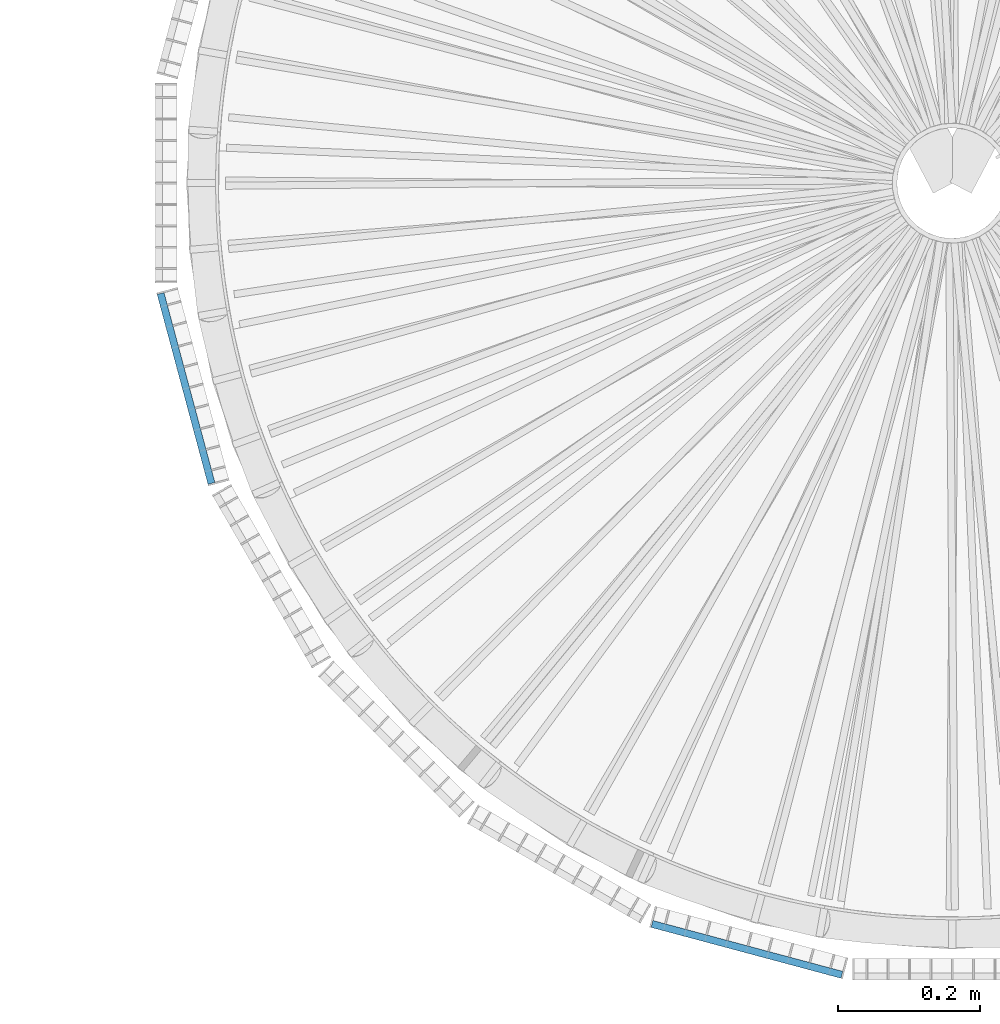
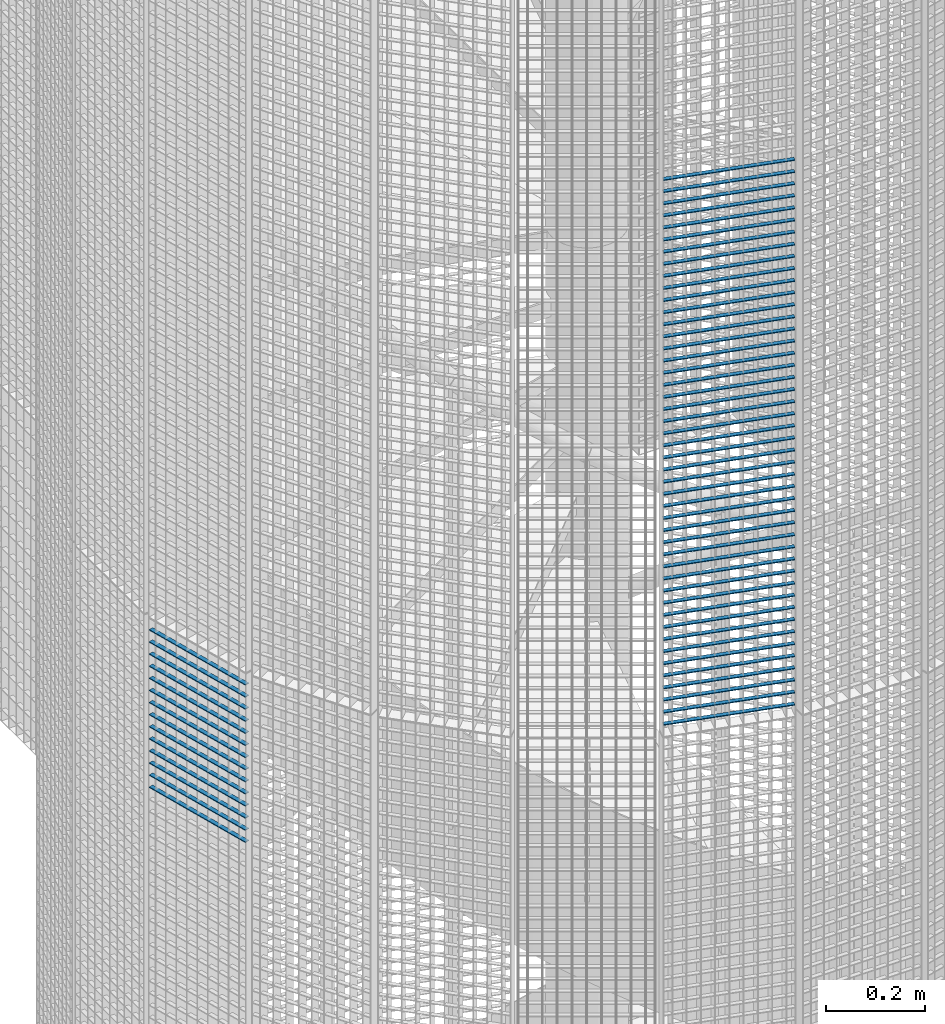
# One storey, part 356 of 1148: 60 beams, 2 elements without a shape of their own.
"""IFC2X3 building model written with IfcOpenShell, lengths in millimetres."""

from ifc_helpers import new_model, si_unit, frame, origin_with_axes, origin_2d_with_axis, place, context, subcontext, project, spatial, rectangle, extrude, material, type_object, element, aggregate, save


model = new_model("IFC2X3")

# Units and contexts
model_context = context("Model", 3, precision=1e-05, world=origin_with_axes())
body_context = subcontext(model_context, "Body", "Model", "MODEL_VIEW")
ifc_project = project(units=[si_unit("LENGTHUNIT", "METRE", prefix="MILLI"), si_unit("AREAUNIT", "SQUARE_METRE"), si_unit("VOLUMEUNIT", "CUBIC_METRE"), si_unit("MASSUNIT", "GRAM", prefix="KILO"), si_unit("TIMEUNIT", "SECOND"), si_unit("PLANEANGLEUNIT", "RADIAN"), si_unit("SOLIDANGLEUNIT", "STERADIAN"), si_unit("THERMODYNAMICTEMPERATUREUNIT", "DEGREE_CELSIUS"), si_unit("LUMINOUSINTENSITYUNIT", "LUMEN")], contexts=[model_context])

# Site, building, storey
site_placement = place(None, origin_with_axes())
site = spatial("IfcSite", under=ifc_project, at=site_placement, Name="Undefined", CompositionType="ELEMENT")
building_placement = place(site_placement, origin_with_axes())
building = spatial("IfcBuilding", under=site, at=building_placement, Name="Undefined", CompositionType="ELEMENT")
storey_placement = place(building_placement, origin_with_axes())
storey = spatial("IfcBuildingStorey", under=building, at=storey_placement, Name="Undefined", CompositionType="ELEMENT", Elevation=0.0)

# Assembly, beams
assembly_1_placement = place(storey_placement, origin_with_axes())
assembly_1 = element("IfcElementAssembly", 1, at=assembly_1_placement, inside=storey, Name="BORDURE", AssemblyPlace="NOTDEFINED", PredefinedType="NOTDEFINED")
ifc_material = material(Name="STEEL/S235JR")
beam_type = type_object("IfcBeamType", Name="PL2*10", PredefinedType="NOTDEFINED")
beam_1_placement = place(assembly_1_placement, frame((21445.1040732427, -1111.25508286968, 7380.0), z_axis=(-0.258819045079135, -0.965925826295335, 0.0), x_axis=(-0.965925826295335, 0.258819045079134, 0.0)))
beam_1 = element("IfcBeam", 2, at=beam_1_placement, type_object=beam_type, material=ifc_material, Name="ENTRETOISE", context=body_context, shape_type="SweptSolid", body=[
    extrude(rectangle(XDim=2.0, YDim=10.0, at=origin_2d_with_axis()), frame((275.999999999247, 9.09494701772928e-13, 1.53210777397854e-14), z_axis=(-1.0, 0.0, 0.0), x_axis=(0.0, -1.0, 0.0)), (0.0, 0.0, 1.0), 276.0),
])
beam_2_placement = place(assembly_1_placement, frame((21445.1040732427, -1111.25508286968, 7350.0), z_axis=(-0.258819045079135, -0.965925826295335, 0.0), x_axis=(-0.965925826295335, 0.258819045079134, 0.0)))
beam_2 = element("IfcBeam", 3, at=beam_2_placement, type_object=beam_type, material=ifc_material, Name="ENTRETOISE", context=body_context, shape_type="SweptSolid", body=[
    extrude(rectangle(XDim=2.0, YDim=10.0, at=origin_2d_with_axis()), frame((275.999999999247, 9.09494701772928e-13, 1.53210777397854e-14), z_axis=(-1.0, 0.0, 0.0), x_axis=(0.0, -1.0, 0.0)), (0.0, 0.0, 1.0), 276.0),
])
beam_3_placement = place(assembly_1_placement, frame((21445.1040732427, -1111.25508286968, 7320.0), z_axis=(-0.258819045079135, -0.965925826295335, 0.0), x_axis=(-0.965925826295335, 0.258819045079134, 0.0)))
beam_3 = element("IfcBeam", 4, at=beam_3_placement, type_object=beam_type, material=ifc_material, Name="ENTRETOISE", context=body_context, shape_type="SweptSolid", body=[
    extrude(rectangle(XDim=2.0, YDim=10.0, at=origin_2d_with_axis()), frame((275.999999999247, 9.09494701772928e-13, 1.53210777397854e-14), z_axis=(-1.0, 0.0, 0.0), x_axis=(0.0, -1.0, 0.0)), (0.0, 0.0, 1.0), 276.0),
])
beam_4_placement = place(assembly_1_placement, frame((21445.1040732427, -1111.25508286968, 7290.0), z_axis=(-0.258819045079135, -0.965925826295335, 0.0), x_axis=(-0.965925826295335, 0.258819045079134, 0.0)))
beam_4 = element("IfcBeam", 5, at=beam_4_placement, type_object=beam_type, material=ifc_material, Name="ENTRETOISE", context=body_context, shape_type="SweptSolid", body=[
    extrude(rectangle(XDim=2.0, YDim=10.0, at=origin_2d_with_axis()), frame((275.999999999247, 9.09494701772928e-13, 1.53210777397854e-14), z_axis=(-1.0, 0.0, 0.0), x_axis=(0.0, -1.0, 0.0)), (0.0, 0.0, 1.0), 276.0),
])
beam_5_placement = place(assembly_1_placement, frame((21445.1040732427, -1111.25508286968, 7260.0), z_axis=(-0.258819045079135, -0.965925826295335, 0.0), x_axis=(-0.965925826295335, 0.258819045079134, 0.0)))
beam_5 = element("IfcBeam", 6, at=beam_5_placement, type_object=beam_type, material=ifc_material, Name="ENTRETOISE", context=body_context, shape_type="SweptSolid", body=[
    extrude(rectangle(XDim=2.0, YDim=10.0, at=origin_2d_with_axis()), frame((275.999999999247, 9.09494701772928e-13, 1.53210777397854e-14), z_axis=(-1.0, 0.0, 0.0), x_axis=(0.0, -1.0, 0.0)), (0.0, 0.0, 1.0), 276.0),
])
beam_6_placement = place(assembly_1_placement, frame((21445.1040732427, -1111.25508286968, 7230.0), z_axis=(-0.258819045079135, -0.965925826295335, 0.0), x_axis=(-0.965925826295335, 0.258819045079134, 0.0)))
beam_6 = element("IfcBeam", 7, at=beam_6_placement, type_object=beam_type, material=ifc_material, Name="ENTRETOISE", context=body_context, shape_type="SweptSolid", body=[
    extrude(rectangle(XDim=2.0, YDim=10.0, at=origin_2d_with_axis()), frame((275.999999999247, 9.09494701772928e-13, 1.53210777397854e-14), z_axis=(-1.0, 0.0, 0.0), x_axis=(0.0, -1.0, 0.0)), (0.0, 0.0, 1.0), 276.0),
])
beam_7_placement = place(assembly_1_placement, frame((21445.1040732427, -1111.25508286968, 7200.0), z_axis=(-0.258819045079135, -0.965925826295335, 0.0), x_axis=(-0.965925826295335, 0.258819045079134, 0.0)))
beam_7 = element("IfcBeam", 8, at=beam_7_placement, type_object=beam_type, material=ifc_material, Name="ENTRETOISE", context=body_context, shape_type="SweptSolid", body=[
    extrude(rectangle(XDim=2.0, YDim=10.0, at=origin_2d_with_axis()), frame((275.999999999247, 9.09494701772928e-13, 1.53210777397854e-14), z_axis=(-1.0, 0.0, 0.0), x_axis=(0.0, -1.0, 0.0)), (0.0, 0.0, 1.0), 276.0),
])
beam_8_placement = place(assembly_1_placement, frame((21445.1040732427, -1111.25508286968, 7170.0), z_axis=(-0.258819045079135, -0.965925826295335, 0.0), x_axis=(-0.965925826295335, 0.258819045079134, 0.0)))
beam_8 = element("IfcBeam", 9, at=beam_8_placement, type_object=beam_type, material=ifc_material, Name="ENTRETOISE", context=body_context, shape_type="SweptSolid", body=[
    extrude(rectangle(XDim=2.0, YDim=10.0, at=origin_2d_with_axis()), frame((275.999999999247, 9.09494701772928e-13, 1.53210777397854e-14), z_axis=(-1.0, 0.0, 0.0), x_axis=(0.0, -1.0, 0.0)), (0.0, 0.0, 1.0), 276.0),
])
beam_9_placement = place(assembly_1_placement, frame((21445.1040732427, -1111.25508286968, 7140.0), z_axis=(-0.258819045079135, -0.965925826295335, 0.0), x_axis=(-0.965925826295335, 0.258819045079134, 0.0)))
beam_9 = element("IfcBeam", 10, at=beam_9_placement, type_object=beam_type, material=ifc_material, Name="ENTRETOISE", context=body_context, shape_type="SweptSolid", body=[
    extrude(rectangle(XDim=2.0, YDim=10.0, at=origin_2d_with_axis()), frame((275.999999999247, 9.09494701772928e-13, 1.53210777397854e-14), z_axis=(-1.0, 0.0, 0.0), x_axis=(0.0, -1.0, 0.0)), (0.0, 0.0, 1.0), 276.0),
])
beam_10_placement = place(assembly_1_placement, frame((21445.1040732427, -1111.25508286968, 6720.0), z_axis=(-0.258819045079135, -0.965925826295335, 0.0), x_axis=(-0.965925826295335, 0.258819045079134, 0.0)))
beam_10 = element("IfcBeam", 11, at=beam_10_placement, type_object=beam_type, material=ifc_material, Name="ENTRETOISE", context=body_context, shape_type="SweptSolid", body=[
    extrude(rectangle(XDim=2.0, YDim=10.0, at=origin_2d_with_axis()), frame((275.999999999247, 9.09494701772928e-13, 1.53210777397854e-14), z_axis=(-1.0, 0.0, 0.0), x_axis=(0.0, -1.0, 0.0)), (0.0, 0.0, 1.0), 276.0),
])
beam_11_placement = place(assembly_1_placement, frame((21445.1040732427, -1111.25508286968, 6690.0), z_axis=(-0.258819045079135, -0.965925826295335, 0.0), x_axis=(-0.965925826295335, 0.258819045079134, 0.0)))
beam_11 = element("IfcBeam", 12, at=beam_11_placement, type_object=beam_type, material=ifc_material, Name="ENTRETOISE", context=body_context, shape_type="SweptSolid", body=[
    extrude(rectangle(XDim=2.0, YDim=10.0, at=origin_2d_with_axis()), frame((275.999999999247, 9.09494701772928e-13, 1.53210777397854e-14), z_axis=(-1.0, 0.0, 0.0), x_axis=(0.0, -1.0, 0.0)), (0.0, 0.0, 1.0), 276.0),
])
beam_12_placement = place(assembly_1_placement, frame((21445.1040732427, -1111.25508286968, 6750.0), z_axis=(-0.258819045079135, -0.965925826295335, 0.0), x_axis=(-0.965925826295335, 0.258819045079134, 0.0)))
beam_12 = element("IfcBeam", 13, at=beam_12_placement, type_object=beam_type, material=ifc_material, Name="ENTRETOISE", context=body_context, shape_type="SweptSolid", body=[
    extrude(rectangle(XDim=2.0, YDim=10.0, at=origin_2d_with_axis()), frame((275.999999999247, 9.09494701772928e-13, 1.53210777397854e-14), z_axis=(-1.0, 0.0, 0.0), x_axis=(0.0, -1.0, 0.0)), (0.0, 0.0, 1.0), 276.0),
])
beam_13_placement = place(assembly_1_placement, frame((21445.1040732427, -1111.25508286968, 6660.0), z_axis=(-0.258819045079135, -0.965925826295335, 0.0), x_axis=(-0.965925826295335, 0.258819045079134, 0.0)))
beam_13 = element("IfcBeam", 14, at=beam_13_placement, type_object=beam_type, material=ifc_material, Name="ENTRETOISE", context=body_context, shape_type="SweptSolid", body=[
    extrude(rectangle(XDim=2.0, YDim=10.0, at=origin_2d_with_axis()), frame((275.999999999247, 9.09494701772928e-13, 1.53210777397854e-14), z_axis=(-1.0, 0.0, 0.0), x_axis=(0.0, -1.0, 0.0)), (0.0, 0.0, 1.0), 276.0),
])
beam_14_placement = place(assembly_1_placement, frame((21445.1040732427, -1111.25508286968, 6630.0), z_axis=(-0.258819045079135, -0.965925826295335, 0.0), x_axis=(-0.965925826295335, 0.258819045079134, 0.0)))
beam_14 = element("IfcBeam", 15, at=beam_14_placement, type_object=beam_type, material=ifc_material, Name="ENTRETOISE", context=body_context, shape_type="SweptSolid", body=[
    extrude(rectangle(XDim=2.0, YDim=10.0, at=origin_2d_with_axis()), frame((275.999999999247, 9.09494701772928e-13, 1.53210777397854e-14), z_axis=(-1.0, 0.0, 0.0), x_axis=(0.0, -1.0, 0.0)), (0.0, 0.0, 1.0), 276.0),
])
beam_15_placement = place(assembly_1_placement, frame((21445.1040732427, -1111.25508286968, 6780.0), z_axis=(-0.258819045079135, -0.965925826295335, 0.0), x_axis=(-0.965925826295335, 0.258819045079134, 0.0)))
beam_15 = element("IfcBeam", 16, at=beam_15_placement, type_object=beam_type, material=ifc_material, Name="ENTRETOISE", context=body_context, shape_type="SweptSolid", body=[
    extrude(rectangle(XDim=2.0, YDim=10.0, at=origin_2d_with_axis()), frame((275.999999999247, 9.09494701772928e-13, 1.53210777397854e-14), z_axis=(-1.0, 0.0, 0.0), x_axis=(0.0, -1.0, 0.0)), (0.0, 0.0, 1.0), 276.0),
])
beam_16_placement = place(assembly_1_placement, frame((21445.1040732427, -1111.25508286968, 6600.0), z_axis=(-0.258819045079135, -0.965925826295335, 0.0), x_axis=(-0.965925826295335, 0.258819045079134, 0.0)))
beam_16 = element("IfcBeam", 17, at=beam_16_placement, type_object=beam_type, material=ifc_material, Name="ENTRETOISE", context=body_context, shape_type="SweptSolid", body=[
    extrude(rectangle(XDim=2.0, YDim=10.0, at=origin_2d_with_axis()), frame((275.999999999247, 9.09494701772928e-13, 1.53210777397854e-14), z_axis=(-1.0, 0.0, 0.0), x_axis=(0.0, -1.0, 0.0)), (0.0, 0.0, 1.0), 276.0),
])
beam_17_placement = place(assembly_1_placement, frame((21445.1040732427, -1111.25508286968, 6810.0), z_axis=(-0.258819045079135, -0.965925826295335, 0.0), x_axis=(-0.965925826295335, 0.258819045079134, 0.0)))
beam_17 = element("IfcBeam", 18, at=beam_17_placement, type_object=beam_type, material=ifc_material, Name="ENTRETOISE", context=body_context, shape_type="SweptSolid", body=[
    extrude(rectangle(XDim=2.0, YDim=10.0, at=origin_2d_with_axis()), frame((275.999999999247, 9.09494701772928e-13, 1.53210777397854e-14), z_axis=(-1.0, 0.0, 0.0), x_axis=(0.0, -1.0, 0.0)), (0.0, 0.0, 1.0), 276.0),
])
beam_18_placement = place(assembly_1_placement, frame((21445.1040732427, -1111.25508286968, 6570.0), z_axis=(-0.258819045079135, -0.965925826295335, 0.0), x_axis=(-0.965925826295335, 0.258819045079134, 0.0)))
beam_18 = element("IfcBeam", 19, at=beam_18_placement, type_object=beam_type, material=ifc_material, Name="ENTRETOISE", context=body_context, shape_type="SweptSolid", body=[
    extrude(rectangle(XDim=2.0, YDim=10.0, at=origin_2d_with_axis()), frame((275.999999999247, 9.09494701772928e-13, 1.53210777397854e-14), z_axis=(-1.0, 0.0, 0.0), x_axis=(0.0, -1.0, 0.0)), (0.0, 0.0, 1.0), 276.0),
])
beam_19_placement = place(assembly_1_placement, frame((21445.1040732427, -1111.25508286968, 6540.0), z_axis=(-0.258819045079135, -0.965925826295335, 0.0), x_axis=(-0.965925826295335, 0.258819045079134, 0.0)))
beam_19 = element("IfcBeam", 20, at=beam_19_placement, type_object=beam_type, material=ifc_material, Name="ENTRETOISE", context=body_context, shape_type="SweptSolid", body=[
    extrude(rectangle(XDim=2.0, YDim=10.0, at=origin_2d_with_axis()), frame((275.999999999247, 9.09494701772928e-13, 1.53210777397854e-14), z_axis=(-1.0, 0.0, 0.0), x_axis=(0.0, -1.0, 0.0)), (0.0, 0.0, 1.0), 276.0),
])
beam_20_placement = place(assembly_1_placement, frame((21445.1040732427, -1111.25508286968, 6840.0), z_axis=(-0.258819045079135, -0.965925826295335, 0.0), x_axis=(-0.965925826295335, 0.258819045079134, 0.0)))
beam_20 = element("IfcBeam", 21, at=beam_20_placement, type_object=beam_type, material=ifc_material, Name="ENTRETOISE", context=body_context, shape_type="SweptSolid", body=[
    extrude(rectangle(XDim=2.0, YDim=10.0, at=origin_2d_with_axis()), frame((275.999999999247, 9.09494701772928e-13, 1.53210777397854e-14), z_axis=(-1.0, 0.0, 0.0), x_axis=(0.0, -1.0, 0.0)), (0.0, 0.0, 1.0), 276.0),
])
beam_21_placement = place(assembly_1_placement, frame((21445.1040732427, -1111.25508286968, 6510.0), z_axis=(-0.258819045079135, -0.965925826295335, 0.0), x_axis=(-0.965925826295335, 0.258819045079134, 0.0)))
beam_21 = element("IfcBeam", 22, at=beam_21_placement, type_object=beam_type, material=ifc_material, Name="ENTRETOISE", context=body_context, shape_type="SweptSolid", body=[
    extrude(rectangle(XDim=2.0, YDim=10.0, at=origin_2d_with_axis()), frame((275.999999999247, 9.09494701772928e-13, 1.53210777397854e-14), z_axis=(-1.0, 0.0, 0.0), x_axis=(0.0, -1.0, 0.0)), (0.0, 0.0, 1.0), 276.0),
])
beam_22_placement = place(assembly_1_placement, frame((21445.1040732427, -1111.25508286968, 6480.0), z_axis=(-0.258819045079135, -0.965925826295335, 0.0), x_axis=(-0.965925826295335, 0.258819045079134, 0.0)))
beam_22 = element("IfcBeam", 23, at=beam_22_placement, type_object=beam_type, material=ifc_material, Name="ENTRETOISE", context=body_context, shape_type="SweptSolid", body=[
    extrude(rectangle(XDim=2.0, YDim=10.0, at=origin_2d_with_axis()), frame((275.999999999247, 9.09494701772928e-13, 1.53210777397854e-14), z_axis=(-1.0, 0.0, 0.0), x_axis=(0.0, -1.0, 0.0)), (0.0, 0.0, 1.0), 276.0),
])
beam_23_placement = place(assembly_1_placement, frame((21445.1040732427, -1111.25508286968, 6870.0), z_axis=(-0.258819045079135, -0.965925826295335, 0.0), x_axis=(-0.965925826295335, 0.258819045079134, 0.0)))
beam_23 = element("IfcBeam", 24, at=beam_23_placement, type_object=beam_type, material=ifc_material, Name="ENTRETOISE", context=body_context, shape_type="SweptSolid", body=[
    extrude(rectangle(XDim=2.0, YDim=10.0, at=origin_2d_with_axis()), frame((275.999999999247, 9.09494701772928e-13, 1.53210777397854e-14), z_axis=(-1.0, 0.0, 0.0), x_axis=(0.0, -1.0, 0.0)), (0.0, 0.0, 1.0), 276.0),
])
beam_24_placement = place(assembly_1_placement, frame((21445.1040732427, -1111.25508286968, 6450.0), z_axis=(-0.258819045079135, -0.965925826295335, 0.0), x_axis=(-0.965925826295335, 0.258819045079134, 0.0)))
beam_24 = element("IfcBeam", 25, at=beam_24_placement, type_object=beam_type, material=ifc_material, Name="ENTRETOISE", context=body_context, shape_type="SweptSolid", body=[
    extrude(rectangle(XDim=2.0, YDim=10.0, at=origin_2d_with_axis()), frame((275.999999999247, 9.09494701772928e-13, 1.53210777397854e-14), z_axis=(-1.0, 0.0, 0.0), x_axis=(0.0, -1.0, 0.0)), (0.0, 0.0, 1.0), 276.0),
])
beam_25_placement = place(assembly_1_placement, frame((21445.1040732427, -1111.25508286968, 6420.0), z_axis=(-0.258819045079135, -0.965925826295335, 0.0), x_axis=(-0.965925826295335, 0.258819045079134, 0.0)))
beam_25 = element("IfcBeam", 26, at=beam_25_placement, type_object=beam_type, material=ifc_material, Name="ENTRETOISE", context=body_context, shape_type="SweptSolid", body=[
    extrude(rectangle(XDim=2.0, YDim=10.0, at=origin_2d_with_axis()), frame((275.999999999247, 9.09494701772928e-13, 1.53210777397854e-14), z_axis=(-1.0, 0.0, 0.0), x_axis=(0.0, -1.0, 0.0)), (0.0, 0.0, 1.0), 276.0),
])
beam_26_placement = place(assembly_1_placement, frame((21445.1040732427, -1111.25508286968, 6900.0), z_axis=(-0.258819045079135, -0.965925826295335, 0.0), x_axis=(-0.965925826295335, 0.258819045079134, 0.0)))
beam_26 = element("IfcBeam", 27, at=beam_26_placement, type_object=beam_type, material=ifc_material, Name="ENTRETOISE", context=body_context, shape_type="SweptSolid", body=[
    extrude(rectangle(XDim=2.0, YDim=10.0, at=origin_2d_with_axis()), frame((275.999999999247, 9.09494701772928e-13, 1.53210777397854e-14), z_axis=(-1.0, 0.0, 0.0), x_axis=(0.0, -1.0, 0.0)), (0.0, 0.0, 1.0), 276.0),
])
beam_27_placement = place(assembly_1_placement, frame((21445.1040732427, -1111.25508286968, 6390.0), z_axis=(-0.258819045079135, -0.965925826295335, 0.0), x_axis=(-0.965925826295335, 0.258819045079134, 0.0)))
beam_27 = element("IfcBeam", 28, at=beam_27_placement, type_object=beam_type, material=ifc_material, Name="ENTRETOISE", context=body_context, shape_type="SweptSolid", body=[
    extrude(rectangle(XDim=2.0, YDim=10.0, at=origin_2d_with_axis()), frame((275.999999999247, 9.09494701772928e-13, 1.53210777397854e-14), z_axis=(-1.0, 0.0, 0.0), x_axis=(0.0, -1.0, 0.0)), (0.0, 0.0, 1.0), 276.0),
])
beam_28_placement = place(assembly_1_placement, frame((21445.1040732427, -1111.25508286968, 6930.0), z_axis=(-0.258819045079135, -0.965925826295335, 0.0), x_axis=(-0.965925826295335, 0.258819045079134, 0.0)))
beam_28 = element("IfcBeam", 29, at=beam_28_placement, type_object=beam_type, material=ifc_material, Name="ENTRETOISE", context=body_context, shape_type="SweptSolid", body=[
    extrude(rectangle(XDim=2.0, YDim=10.0, at=origin_2d_with_axis()), frame((275.999999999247, 9.09494701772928e-13, 1.53210777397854e-14), z_axis=(-1.0, 0.0, 0.0), x_axis=(0.0, -1.0, 0.0)), (0.0, 0.0, 1.0), 276.0),
])
beam_29_placement = place(assembly_1_placement, frame((21445.1040732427, -1111.25508286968, 6360.0), z_axis=(-0.258819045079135, -0.965925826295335, 0.0), x_axis=(-0.965925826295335, 0.258819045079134, 0.0)))
beam_29 = element("IfcBeam", 30, at=beam_29_placement, type_object=beam_type, material=ifc_material, Name="ENTRETOISE", context=body_context, shape_type="SweptSolid", body=[
    extrude(rectangle(XDim=2.0, YDim=10.0, at=origin_2d_with_axis()), frame((275.999999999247, 9.09494701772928e-13, 1.53210777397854e-14), z_axis=(-1.0, 0.0, 0.0), x_axis=(0.0, -1.0, 0.0)), (0.0, 0.0, 1.0), 276.0),
])
beam_30_placement = place(assembly_1_placement, frame((21445.1040732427, -1111.25508286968, 6330.0), z_axis=(-0.258819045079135, -0.965925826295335, 0.0), x_axis=(-0.965925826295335, 0.258819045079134, 0.0)))
beam_30 = element("IfcBeam", 31, at=beam_30_placement, type_object=beam_type, material=ifc_material, Name="ENTRETOISE", context=body_context, shape_type="SweptSolid", body=[
    extrude(rectangle(XDim=2.0, YDim=10.0, at=origin_2d_with_axis()), frame((275.999999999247, 9.09494701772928e-13, 1.53210777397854e-14), z_axis=(-1.0, 0.0, 0.0), x_axis=(0.0, -1.0, 0.0)), (0.0, 0.0, 1.0), 276.0),
])
beam_31_placement = place(assembly_1_placement, frame((21445.1040732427, -1111.25508286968, 6960.0), z_axis=(-0.258819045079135, -0.965925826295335, 0.0), x_axis=(-0.965925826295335, 0.258819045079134, 0.0)))
beam_31 = element("IfcBeam", 32, at=beam_31_placement, type_object=beam_type, material=ifc_material, Name="ENTRETOISE", context=body_context, shape_type="SweptSolid", body=[
    extrude(rectangle(XDim=2.0, YDim=10.0, at=origin_2d_with_axis()), frame((275.999999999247, 9.09494701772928e-13, 1.53210777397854e-14), z_axis=(-1.0, 0.0, 0.0), x_axis=(0.0, -1.0, 0.0)), (0.0, 0.0, 1.0), 276.0),
])
beam_32_placement = place(assembly_1_placement, frame((21445.1040732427, -1111.25508286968, 6300.0), z_axis=(-0.258819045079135, -0.965925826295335, 0.0), x_axis=(-0.965925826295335, 0.258819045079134, 0.0)))
beam_32 = element("IfcBeam", 33, at=beam_32_placement, type_object=beam_type, material=ifc_material, Name="ENTRETOISE", context=body_context, shape_type="SweptSolid", body=[
    extrude(rectangle(XDim=2.0, YDim=10.0, at=origin_2d_with_axis()), frame((275.999999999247, 9.09494701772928e-13, 1.53210777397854e-14), z_axis=(-1.0, 0.0, 0.0), x_axis=(0.0, -1.0, 0.0)), (0.0, 0.0, 1.0), 276.0),
])
beam_33_placement = place(assembly_1_placement, frame((21445.1040732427, -1111.25508286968, 6270.0), z_axis=(-0.258819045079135, -0.965925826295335, 0.0), x_axis=(-0.965925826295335, 0.258819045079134, 0.0)))
beam_33 = element("IfcBeam", 34, at=beam_33_placement, type_object=beam_type, material=ifc_material, Name="ENTRETOISE", context=body_context, shape_type="SweptSolid", body=[
    extrude(rectangle(XDim=2.0, YDim=10.0, at=origin_2d_with_axis()), frame((275.999999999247, 9.09494701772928e-13, 1.53210777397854e-14), z_axis=(-1.0, 0.0, 0.0), x_axis=(0.0, -1.0, 0.0)), (0.0, 0.0, 1.0), 276.0),
])
beam_34_placement = place(assembly_1_placement, frame((21445.1040732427, -1111.25508286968, 6990.0), z_axis=(-0.258819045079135, -0.965925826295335, 0.0), x_axis=(-0.965925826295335, 0.258819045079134, 0.0)))
beam_34 = element("IfcBeam", 35, at=beam_34_placement, type_object=beam_type, material=ifc_material, Name="ENTRETOISE", context=body_context, shape_type="SweptSolid", body=[
    extrude(rectangle(XDim=2.0, YDim=10.0, at=origin_2d_with_axis()), frame((275.999999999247, 9.09494701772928e-13, 1.53210777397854e-14), z_axis=(-1.0, 0.0, 0.0), x_axis=(0.0, -1.0, 0.0)), (0.0, 0.0, 1.0), 276.0),
])
beam_35_placement = place(assembly_1_placement, frame((21445.1040732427, -1111.25508286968, 6240.0), z_axis=(-0.258819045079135, -0.965925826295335, 0.0), x_axis=(-0.965925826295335, 0.258819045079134, 0.0)))
beam_35 = element("IfcBeam", 36, at=beam_35_placement, type_object=beam_type, material=ifc_material, Name="ENTRETOISE", context=body_context, shape_type="SweptSolid", body=[
    extrude(rectangle(XDim=2.0, YDim=10.0, at=origin_2d_with_axis()), frame((275.999999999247, 9.09494701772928e-13, 1.53210777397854e-14), z_axis=(-1.0, 0.0, 0.0), x_axis=(0.0, -1.0, 0.0)), (0.0, 0.0, 1.0), 276.0),
])
beam_36_placement = place(assembly_1_placement, frame((21445.1040732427, -1111.25508286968, 7020.0), z_axis=(-0.258819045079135, -0.965925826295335, 0.0), x_axis=(-0.965925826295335, 0.258819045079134, 0.0)))
beam_36 = element("IfcBeam", 37, at=beam_36_placement, type_object=beam_type, material=ifc_material, Name="ENTRETOISE", context=body_context, shape_type="SweptSolid", body=[
    extrude(rectangle(XDim=2.0, YDim=10.0, at=origin_2d_with_axis()), frame((275.999999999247, 9.09494701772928e-13, 1.53210777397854e-14), z_axis=(-1.0, 0.0, 0.0), x_axis=(0.0, -1.0, 0.0)), (0.0, 0.0, 1.0), 276.0),
])
beam_37_placement = place(assembly_1_placement, frame((21445.1040732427, -1111.25508286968, 6210.0), z_axis=(-0.258819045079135, -0.965925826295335, 0.0), x_axis=(-0.965925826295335, 0.258819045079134, 0.0)))
beam_37 = element("IfcBeam", 38, at=beam_37_placement, type_object=beam_type, material=ifc_material, Name="ENTRETOISE", context=body_context, shape_type="SweptSolid", body=[
    extrude(rectangle(XDim=2.0, YDim=10.0, at=origin_2d_with_axis()), frame((275.999999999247, 9.09494701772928e-13, 1.53210777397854e-14), z_axis=(-1.0, 0.0, 0.0), x_axis=(0.0, -1.0, 0.0)), (0.0, 0.0, 1.0), 276.0),
])
beam_38_placement = place(assembly_1_placement, frame((21445.1040732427, -1111.25508286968, 6180.0), z_axis=(-0.258819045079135, -0.965925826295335, 0.0), x_axis=(-0.965925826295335, 0.258819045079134, 0.0)))
beam_38 = element("IfcBeam", 39, at=beam_38_placement, type_object=beam_type, material=ifc_material, Name="ENTRETOISE", context=body_context, shape_type="SweptSolid", body=[
    extrude(rectangle(XDim=2.0, YDim=10.0, at=origin_2d_with_axis()), frame((275.999999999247, 9.09494701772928e-13, 1.53210777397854e-14), z_axis=(-1.0, 0.0, 0.0), x_axis=(0.0, -1.0, 0.0)), (0.0, 0.0, 1.0), 276.0),
])
beam_39_placement = place(assembly_1_placement, frame((21445.1040732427, -1111.25508286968, 7050.0), z_axis=(-0.258819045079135, -0.965925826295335, 0.0), x_axis=(-0.965925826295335, 0.258819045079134, 0.0)))
beam_39 = element("IfcBeam", 40, at=beam_39_placement, type_object=beam_type, material=ifc_material, Name="ENTRETOISE", context=body_context, shape_type="SweptSolid", body=[
    extrude(rectangle(XDim=2.0, YDim=10.0, at=origin_2d_with_axis()), frame((275.999999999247, 9.09494701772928e-13, 1.53210777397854e-14), z_axis=(-1.0, 0.0, 0.0), x_axis=(0.0, -1.0, 0.0)), (0.0, 0.0, 1.0), 276.0),
])
beam_40_placement = place(assembly_1_placement, frame((21445.1040732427, -1111.25508286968, 6150.0), z_axis=(-0.258819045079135, -0.965925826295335, 0.0), x_axis=(-0.965925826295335, 0.258819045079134, 0.0)))
beam_40 = element("IfcBeam", 41, at=beam_40_placement, type_object=beam_type, material=ifc_material, Name="ENTRETOISE", context=body_context, shape_type="SweptSolid", body=[
    extrude(rectangle(XDim=2.0, YDim=10.0, at=origin_2d_with_axis()), frame((275.999999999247, 9.09494701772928e-13, 1.53210777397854e-14), z_axis=(-1.0, 0.0, 0.0), x_axis=(0.0, -1.0, 0.0)), (0.0, 0.0, 1.0), 276.0),
])
beam_41_placement = place(assembly_1_placement, frame((21445.1040732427, -1111.25508286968, 6120.0), z_axis=(-0.258819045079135, -0.965925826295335, 0.0), x_axis=(-0.965925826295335, 0.258819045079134, 0.0)))
beam_41 = element("IfcBeam", 42, at=beam_41_placement, type_object=beam_type, material=ifc_material, Name="ENTRETOISE", context=body_context, shape_type="SweptSolid", body=[
    extrude(rectangle(XDim=2.0, YDim=10.0, at=origin_2d_with_axis()), frame((275.999999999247, 9.09494701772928e-13, 1.53210777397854e-14), z_axis=(-1.0, 0.0, 0.0), x_axis=(0.0, -1.0, 0.0)), (0.0, 0.0, 1.0), 276.0),
])
beam_42_placement = place(assembly_1_placement, frame((21445.1040732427, -1111.25508286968, 7080.0), z_axis=(-0.258819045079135, -0.965925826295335, 0.0), x_axis=(-0.965925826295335, 0.258819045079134, 0.0)))
beam_42 = element("IfcBeam", 43, at=beam_42_placement, type_object=beam_type, material=ifc_material, Name="ENTRETOISE", context=body_context, shape_type="SweptSolid", body=[
    extrude(rectangle(XDim=2.0, YDim=10.0, at=origin_2d_with_axis()), frame((275.999999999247, 9.09494701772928e-13, 1.53210777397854e-14), z_axis=(-1.0, 0.0, 0.0), x_axis=(0.0, -1.0, 0.0)), (0.0, 0.0, 1.0), 276.0),
])
beam_43_placement = place(assembly_1_placement, frame((21445.1040732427, -1111.25508286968, 6090.0), z_axis=(-0.258819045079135, -0.965925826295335, 0.0), x_axis=(-0.965925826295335, 0.258819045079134, 0.0)))
beam_43 = element("IfcBeam", 44, at=beam_43_placement, type_object=beam_type, material=ifc_material, Name="ENTRETOISE", context=body_context, shape_type="SweptSolid", body=[
    extrude(rectangle(XDim=2.0, YDim=10.0, at=origin_2d_with_axis()), frame((275.999999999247, 9.09494701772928e-13, 1.53210777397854e-14), z_axis=(-1.0, 0.0, 0.0), x_axis=(0.0, -1.0, 0.0)), (0.0, 0.0, 1.0), 276.0),
])
beam_44_placement = place(assembly_1_placement, frame((21445.1040732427, -1111.25508286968, 6060.0), z_axis=(-0.258819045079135, -0.965925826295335, 0.0), x_axis=(-0.965925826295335, 0.258819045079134, 0.0)))
beam_44 = element("IfcBeam", 45, at=beam_44_placement, type_object=beam_type, material=ifc_material, Name="ENTRETOISE", context=body_context, shape_type="SweptSolid", body=[
    extrude(rectangle(XDim=2.0, YDim=10.0, at=origin_2d_with_axis()), frame((275.999999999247, 9.09494701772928e-13, 1.53210777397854e-14), z_axis=(-1.0, 0.0, 0.0), x_axis=(0.0, -1.0, 0.0)), (0.0, 0.0, 1.0), 276.0),
])
beam_45_placement = place(assembly_1_placement, frame((21445.1040732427, -1111.25508286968, 7110.0), z_axis=(-0.258819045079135, -0.965925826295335, 0.0), x_axis=(-0.965925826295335, 0.258819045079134, 0.0)))
beam_45 = element("IfcBeam", 46, at=beam_45_placement, type_object=beam_type, material=ifc_material, Name="ENTRETOISE", context=body_context, shape_type="SweptSolid", body=[
    extrude(rectangle(XDim=2.0, YDim=10.0, at=origin_2d_with_axis()), frame((275.999999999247, 9.09494701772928e-13, 1.53210777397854e-14), z_axis=(-1.0, 0.0, 0.0), x_axis=(0.0, -1.0, 0.0)), (0.0, 0.0, 1.0), 276.0),
])
beam_46_placement = place(assembly_1_placement, frame((21445.1040732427, -1111.25508286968, 6030.0), z_axis=(-0.258819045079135, -0.965925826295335, 0.0), x_axis=(-0.965925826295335, 0.258819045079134, 0.0)))
beam_46 = element("IfcBeam", 47, at=beam_46_placement, type_object=beam_type, material=ifc_material, Name="ENTRETOISE", context=body_context, shape_type="SweptSolid", body=[
    extrude(rectangle(XDim=2.0, YDim=10.0, at=origin_2d_with_axis()), frame((275.999999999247, 9.09494701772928e-13, 1.53210777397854e-14), z_axis=(-1.0, 0.0, 0.0), x_axis=(0.0, -1.0, 0.0)), (0.0, 0.0, 1.0), 276.0),
])
aggregate(assembly_1, [beam_1, beam_2, beam_3, beam_4, beam_5, beam_6, beam_7, beam_8, beam_9, beam_10, beam_11, beam_12, beam_13, beam_14, beam_15, beam_16, beam_17, beam_18, beam_19, beam_20, beam_21, beam_22, beam_23, beam_24, beam_25, beam_26, beam_27, beam_28, beam_29, beam_30, beam_31, beam_32, beam_33, beam_34, beam_35, beam_36, beam_37, beam_38, beam_39, beam_40, beam_41, beam_42, beam_43, beam_44, beam_45, beam_46])

assembly_2_placement = place(storey_placement, origin_with_axes())
assembly_2 = element("IfcElementAssembly", 48, at=assembly_2_placement, inside=storey, Name="BORDURE", AssemblyPlace="NOTDEFINED", PredefinedType="NOTDEFINED")
beam_47_placement = place(assembly_2_placement, frame((20560.1769047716, -421.483733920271, 5970.0), z_axis=(-0.965925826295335, -0.258819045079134, 0.0), x_axis=(-0.258819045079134, 0.965925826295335, 0.0)))
beam_47 = element("IfcBeam", 49, at=beam_47_placement, type_object=beam_type, material=ifc_material, Name="ENTRETOISE", context=body_context, shape_type="SweptSolid", body=[
    extrude(rectangle(XDim=2.0, YDim=10.0, at=origin_2d_with_axis()), frame((275.999999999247, 9.09494701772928e-13, 1.53210777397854e-14), z_axis=(-1.0, 0.0, 0.0), x_axis=(0.0, -1.0, 0.0)), (0.0, 0.0, 1.0), 276.0),
])
beam_48_placement = place(assembly_2_placement, frame((20560.1769047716, -421.483733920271, 5940.0), z_axis=(-0.965925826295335, -0.258819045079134, 0.0), x_axis=(-0.258819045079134, 0.965925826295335, 0.0)))
beam_48 = element("IfcBeam", 50, at=beam_48_placement, type_object=beam_type, material=ifc_material, Name="ENTRETOISE", context=body_context, shape_type="SweptSolid", body=[
    extrude(rectangle(XDim=2.0, YDim=10.0, at=origin_2d_with_axis()), frame((275.999999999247, 9.09494701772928e-13, 1.53210777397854e-14), z_axis=(-1.0, 0.0, 0.0), x_axis=(0.0, -1.0, 0.0)), (0.0, 0.0, 1.0), 276.0),
])
beam_49_placement = place(assembly_2_placement, frame((20560.1769047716, -421.483733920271, 5910.0), z_axis=(-0.965925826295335, -0.258819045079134, 0.0), x_axis=(-0.258819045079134, 0.965925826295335, 0.0)))
beam_49 = element("IfcBeam", 51, at=beam_49_placement, type_object=beam_type, material=ifc_material, Name="ENTRETOISE", context=body_context, shape_type="SweptSolid", body=[
    extrude(rectangle(XDim=2.0, YDim=10.0, at=origin_2d_with_axis()), frame((275.999999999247, 9.09494701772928e-13, 1.53210777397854e-14), z_axis=(-1.0, 0.0, 0.0), x_axis=(0.0, -1.0, 0.0)), (0.0, 0.0, 1.0), 276.0),
])
beam_50_placement = place(assembly_2_placement, frame((20560.1769047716, -421.483733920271, 5880.0), z_axis=(-0.965925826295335, -0.258819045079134, 0.0), x_axis=(-0.258819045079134, 0.965925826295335, 0.0)))
beam_50 = element("IfcBeam", 52, at=beam_50_placement, type_object=beam_type, material=ifc_material, Name="ENTRETOISE", context=body_context, shape_type="SweptSolid", body=[
    extrude(rectangle(XDim=2.0, YDim=10.0, at=origin_2d_with_axis()), frame((275.999999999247, 9.09494701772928e-13, 1.53210777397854e-14), z_axis=(-1.0, 0.0, 0.0), x_axis=(0.0, -1.0, 0.0)), (0.0, 0.0, 1.0), 276.0),
])
beam_51_placement = place(assembly_2_placement, frame((20560.1769047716, -421.483733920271, 5850.0), z_axis=(-0.965925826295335, -0.258819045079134, 0.0), x_axis=(-0.258819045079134, 0.965925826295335, 0.0)))
beam_51 = element("IfcBeam", 53, at=beam_51_placement, type_object=beam_type, material=ifc_material, Name="ENTRETOISE", context=body_context, shape_type="SweptSolid", body=[
    extrude(rectangle(XDim=2.0, YDim=10.0, at=origin_2d_with_axis()), frame((275.999999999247, 9.09494701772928e-13, 1.53210777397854e-14), z_axis=(-1.0, 0.0, 0.0), x_axis=(0.0, -1.0, 0.0)), (0.0, 0.0, 1.0), 276.0),
])
beam_52_placement = place(assembly_2_placement, frame((20560.1769047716, -421.483733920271, 5820.0), z_axis=(-0.965925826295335, -0.258819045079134, 0.0), x_axis=(-0.258819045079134, 0.965925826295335, 0.0)))
beam_52 = element("IfcBeam", 54, at=beam_52_placement, type_object=beam_type, material=ifc_material, Name="ENTRETOISE", context=body_context, shape_type="SweptSolid", body=[
    extrude(rectangle(XDim=2.0, YDim=10.0, at=origin_2d_with_axis()), frame((275.999999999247, 9.09494701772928e-13, 1.53210777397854e-14), z_axis=(-1.0, 0.0, 0.0), x_axis=(0.0, -1.0, 0.0)), (0.0, 0.0, 1.0), 276.0),
])
beam_53_placement = place(assembly_2_placement, frame((20560.1769047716, -421.483733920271, 5790.0), z_axis=(-0.965925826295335, -0.258819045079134, 0.0), x_axis=(-0.258819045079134, 0.965925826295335, 0.0)))
beam_53 = element("IfcBeam", 55, at=beam_53_placement, type_object=beam_type, material=ifc_material, Name="ENTRETOISE", context=body_context, shape_type="SweptSolid", body=[
    extrude(rectangle(XDim=2.0, YDim=10.0, at=origin_2d_with_axis()), frame((275.999999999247, 9.09494701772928e-13, 1.53210777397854e-14), z_axis=(-1.0, 0.0, 0.0), x_axis=(0.0, -1.0, 0.0)), (0.0, 0.0, 1.0), 276.0),
])
beam_54_placement = place(assembly_2_placement, frame((20560.1769047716, -421.483733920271, 5760.0), z_axis=(-0.965925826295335, -0.258819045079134, 0.0), x_axis=(-0.258819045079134, 0.965925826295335, 0.0)))
beam_54 = element("IfcBeam", 56, at=beam_54_placement, type_object=beam_type, material=ifc_material, Name="ENTRETOISE", context=body_context, shape_type="SweptSolid", body=[
    extrude(rectangle(XDim=2.0, YDim=10.0, at=origin_2d_with_axis()), frame((275.999999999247, 9.09494701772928e-13, 1.53210777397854e-14), z_axis=(-1.0, 0.0, 0.0), x_axis=(0.0, -1.0, 0.0)), (0.0, 0.0, 1.0), 276.0),
])
beam_55_placement = place(assembly_2_placement, frame((20560.1769047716, -421.48373392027, 5730.0), z_axis=(-0.965925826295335, -0.258819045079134, 0.0), x_axis=(-0.258819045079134, 0.965925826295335, 0.0)))
beam_55 = element("IfcBeam", 57, at=beam_55_placement, type_object=beam_type, material=ifc_material, Name="ENTRETOISE", context=body_context, shape_type="SweptSolid", body=[
    extrude(rectangle(XDim=2.0, YDim=10.0, at=origin_2d_with_axis()), frame((275.999999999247, 9.09494701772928e-13, 1.53210777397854e-14), z_axis=(-1.0, 0.0, 0.0), x_axis=(0.0, -1.0, 0.0)), (0.0, 0.0, 1.0), 276.0),
])
beam_56_placement = place(assembly_2_placement, frame((20560.1769047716, -421.48373392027, 5700.0), z_axis=(-0.965925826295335, -0.258819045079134, 0.0), x_axis=(-0.258819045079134, 0.965925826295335, 0.0)))
beam_56 = element("IfcBeam", 58, at=beam_56_placement, type_object=beam_type, material=ifc_material, Name="ENTRETOISE", context=body_context, shape_type="SweptSolid", body=[
    extrude(rectangle(XDim=2.0, YDim=10.0, at=origin_2d_with_axis()), frame((275.999999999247, 9.09494701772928e-13, 1.53210777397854e-14), z_axis=(-1.0, 0.0, 0.0), x_axis=(0.0, -1.0, 0.0)), (0.0, 0.0, 1.0), 276.0),
])
beam_57_placement = place(assembly_2_placement, frame((20560.1769047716, -421.48373392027, 5670.0), z_axis=(-0.965925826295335, -0.258819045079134, 0.0), x_axis=(-0.258819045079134, 0.965925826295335, 0.0)))
beam_57 = element("IfcBeam", 59, at=beam_57_placement, type_object=beam_type, material=ifc_material, Name="ENTRETOISE", context=body_context, shape_type="SweptSolid", body=[
    extrude(rectangle(XDim=2.0, YDim=10.0, at=origin_2d_with_axis()), frame((275.999999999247, 9.09494701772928e-13, 1.53210777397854e-14), z_axis=(-1.0, 0.0, 0.0), x_axis=(0.0, -1.0, 0.0)), (0.0, 0.0, 1.0), 276.0),
])
beam_58_placement = place(assembly_2_placement, frame((20560.1769047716, -421.48373392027, 5640.0), z_axis=(-0.965925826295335, -0.258819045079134, 0.0), x_axis=(-0.258819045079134, 0.965925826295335, 0.0)))
beam_58 = element("IfcBeam", 60, at=beam_58_placement, type_object=beam_type, material=ifc_material, Name="ENTRETOISE", context=body_context, shape_type="SweptSolid", body=[
    extrude(rectangle(XDim=2.0, YDim=10.0, at=origin_2d_with_axis()), frame((275.999999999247, 9.09494701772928e-13, 1.53210777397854e-14), z_axis=(-1.0, 0.0, 0.0), x_axis=(0.0, -1.0, 0.0)), (0.0, 0.0, 1.0), 276.0),
])
beam_59_placement = place(assembly_2_placement, frame((20560.1769047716, -421.48373392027, 5610.0), z_axis=(-0.965925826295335, -0.258819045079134, 0.0), x_axis=(-0.258819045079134, 0.965925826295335, 0.0)))
beam_59 = element("IfcBeam", 61, at=beam_59_placement, type_object=beam_type, material=ifc_material, Name="ENTRETOISE", context=body_context, shape_type="SweptSolid", body=[
    extrude(rectangle(XDim=2.0, YDim=10.0, at=origin_2d_with_axis()), frame((275.999999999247, 9.09494701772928e-13, 1.53210777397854e-14), z_axis=(-1.0, 0.0, 0.0), x_axis=(0.0, -1.0, 0.0)), (0.0, 0.0, 1.0), 276.0),
])
beam_60_placement = place(assembly_2_placement, frame((20560.1769047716, -421.48373392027, 5580.0), z_axis=(-0.965925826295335, -0.258819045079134, 0.0), x_axis=(-0.258819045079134, 0.965925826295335, 0.0)))
beam_60 = element("IfcBeam", 62, at=beam_60_placement, type_object=beam_type, material=ifc_material, Name="ENTRETOISE", context=body_context, shape_type="SweptSolid", body=[
    extrude(rectangle(XDim=2.0, YDim=10.0, at=origin_2d_with_axis()), frame((275.999999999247, 9.09494701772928e-13, 1.53210777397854e-14), z_axis=(-1.0, 0.0, 0.0), x_axis=(0.0, -1.0, 0.0)), (0.0, 0.0, 1.0), 276.0),
])
aggregate(assembly_2, [beam_47, beam_48, beam_49, beam_50, beam_51, beam_52, beam_53, beam_54, beam_55, beam_56, beam_57, beam_58, beam_59, beam_60])

save(model, "model.ifc")
